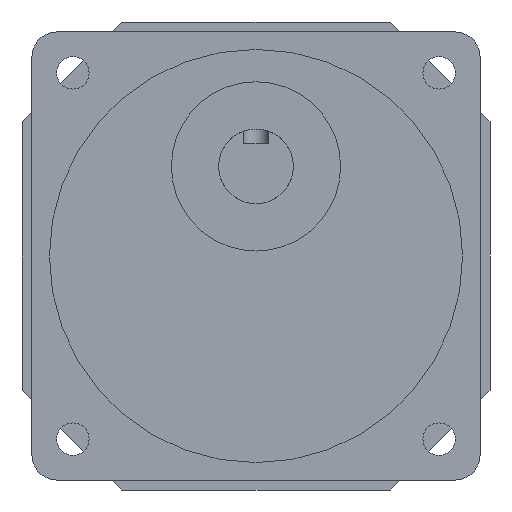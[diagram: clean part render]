
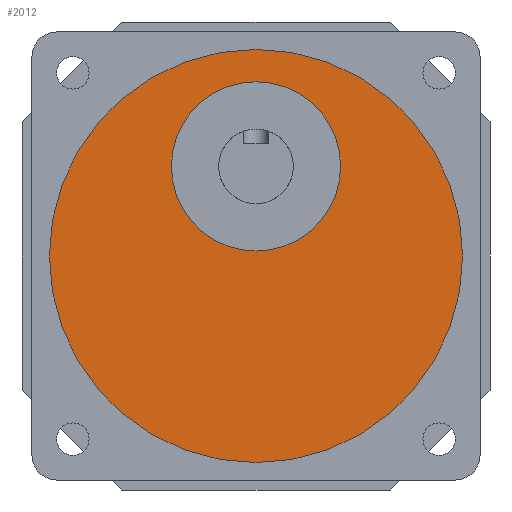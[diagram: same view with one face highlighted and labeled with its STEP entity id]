
A CAD part, front view. The second image highlights one B-rep face of the part: STEP entity #2012.
In plain terms, the highlighted planar face has unit normal (0, -1, 0).
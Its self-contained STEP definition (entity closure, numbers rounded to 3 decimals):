
#53 = VERTEX_POINT ( 'NONE', #445 ) ;
#107 = FACE_OUTER_BOUND ( 'NONE', #1978, .T. ) ;
#300 = ORIENTED_EDGE ( 'NONE', *, *, #1511, .T. ) ;
#322 = CARTESIAN_POINT ( 'NONE',  ( 45., -63.5, 45. ) ) ;
#327 = CARTESIAN_POINT ( 'NONE',  ( 45., -63.5, 3.5 ) ) ;
#329 = EDGE_CURVE ( 'NONE', #2383, #2125, #1792, .T. ) ;
#440 = CARTESIAN_POINT ( 'NONE',  ( 45., -63.5, 46. ) ) ;
#445 = CARTESIAN_POINT ( 'NONE',  ( 45., -63.5, 86.5 ) ) ;
#556 = CIRCLE ( 'NONE', #2534, 41.5 ) ;
#826 = FACE_BOUND ( 'NONE', #3198, .T. ) ;
#978 = AXIS2_PLACEMENT_3D ( 'NONE', #4272, #2535, #3974 ) ;
#1073 = ORIENTED_EDGE ( 'NONE', *, *, #2172, .F. ) ;
#1156 = DIRECTION ( 'NONE',  ( 0., -1., 0. ) ) ;
#1396 = VERTEX_POINT ( 'NONE', #327 ) ;
#1511 = EDGE_CURVE ( 'NONE', #53, #1396, #4004, .T. ) ;
#1788 = ORIENTED_EDGE ( 'NONE', *, *, #2391, .T. ) ;
#1792 = CIRCLE ( 'NONE', #2734, 17. ) ;
#1978 = EDGE_LOOP ( 'NONE', ( #1788, #300 ) ) ;
#2012 = ADVANCED_FACE ( 'NONE', ( #826, #107 ), #2457, .T. ) ;
#2027 = CARTESIAN_POINT ( 'NONE',  ( 45., -63.5, 80. ) ) ;
#2102 = CARTESIAN_POINT ( 'NONE',  ( 45., -63.5, 63. ) ) ;
#2125 = VERTEX_POINT ( 'NONE', #440 ) ;
#2172 = EDGE_CURVE ( 'NONE', #2125, #2383, #2726, .T. ) ;
#2213 = CARTESIAN_POINT ( 'NONE',  ( 45., -63.5, 63. ) ) ;
#2222 = AXIS2_PLACEMENT_3D ( 'NONE', #2213, #1156, #3296 ) ;
#2368 = CARTESIAN_POINT ( 'NONE',  ( 45., -63.5, 45. ) ) ;
#2383 = VERTEX_POINT ( 'NONE', #2027 ) ;
#2391 = EDGE_CURVE ( 'NONE', #1396, #53, #556, .T. ) ;
#2457 = PLANE ( 'NONE',  #2671 ) ;
#2471 = DIRECTION ( 'NONE',  ( 0., -1., 0. ) ) ;
#2534 = AXIS2_PLACEMENT_3D ( 'NONE', #2368, #4146, #4505 ) ;
#2535 = DIRECTION ( 'NONE',  ( 0., -1., 0. ) ) ;
#2671 = AXIS2_PLACEMENT_3D ( 'NONE', #322, #2471, #2862 ) ;
#2726 = CIRCLE ( 'NONE', #2222, 17. ) ;
#2734 = AXIS2_PLACEMENT_3D ( 'NONE', #2102, #3201, #4609 ) ;
#2862 = DIRECTION ( 'NONE',  ( 0., 0., -1. ) ) ;
#3046 = ORIENTED_EDGE ( 'NONE', *, *, #329, .F. ) ;
#3198 = EDGE_LOOP ( 'NONE', ( #3046, #1073 ) ) ;
#3201 = DIRECTION ( 'NONE',  ( 0., -1., 0. ) ) ;
#3296 = DIRECTION ( 'NONE',  ( 0., 0., -1. ) ) ;
#3974 = DIRECTION ( 'NONE',  ( 0., 0., -1. ) ) ;
#4004 = CIRCLE ( 'NONE', #978, 41.5 ) ;
#4146 = DIRECTION ( 'NONE',  ( 0., -1., 0. ) ) ;
#4272 = CARTESIAN_POINT ( 'NONE',  ( 45., -63.5, 45. ) ) ;
#4505 = DIRECTION ( 'NONE',  ( 0., 0., -1. ) ) ;
#4609 = DIRECTION ( 'NONE',  ( 0., 0., -1. ) ) ;
